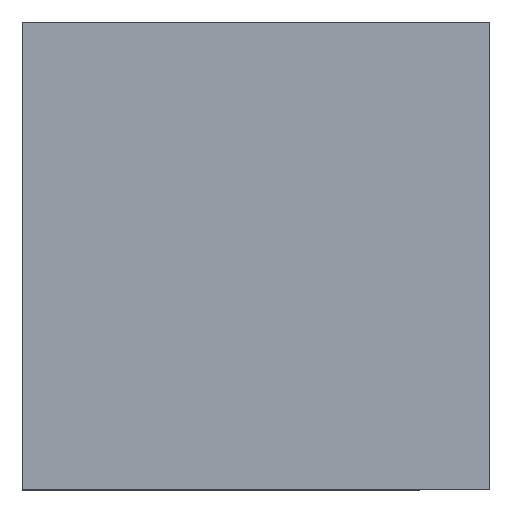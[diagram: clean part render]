
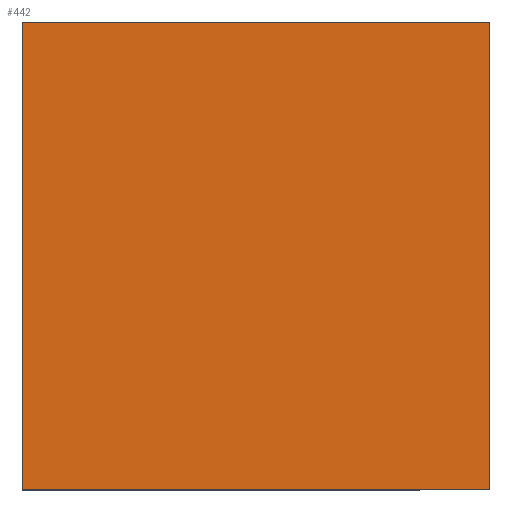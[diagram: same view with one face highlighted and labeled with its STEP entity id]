
A CAD part, top view. The second image highlights one B-rep face of the part: STEP entity #442.
In plain terms, the highlighted planar face has unit normal (0, 0, 1).
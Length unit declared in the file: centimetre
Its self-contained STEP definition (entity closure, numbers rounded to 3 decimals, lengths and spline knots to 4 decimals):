
#22 = VECTOR ( 'NONE', #805, 100. ) ;
#24 = VERTEX_POINT ( 'NONE', #83 ) ;
#33 = FACE_OUTER_BOUND ( 'NONE', #736, .T. ) ;
#38 = DIRECTION ( 'NONE',  ( 1., 0., 0. ) ) ;
#66 = ORIENTED_EDGE ( 'NONE', *, *, #72, .T. ) ;
#72 = EDGE_CURVE ( 'NONE', #688, #473, #140, .T. ) ;
#83 = CARTESIAN_POINT ( 'NONE',  ( 0., 0., 1000. ) ) ;
#94 = DIRECTION ( 'NONE',  ( -1., 0., 0. ) ) ;
#140 = LINE ( 'NONE', #595, #240 ) ;
#143 = VECTOR ( 'NONE', #94, 100. ) ;
#224 = CARTESIAN_POINT ( 'NONE',  ( 0., 1000., 1000. ) ) ;
#230 = VECTOR ( 'NONE', #38, 100. ) ;
#240 = VECTOR ( 'NONE', #465, 100. ) ;
#296 = CARTESIAN_POINT ( 'NONE',  ( 0., 1000., 1000. ) ) ;
#329 = AXIS2_PLACEMENT_3D ( 'NONE', #427, #361, #497 ) ;
#348 = LINE ( 'NONE', #683, #143 ) ;
#350 = ORIENTED_EDGE ( 'NONE', *, *, #823, .T. ) ;
#356 = ORIENTED_EDGE ( 'NONE', *, *, #448, .T. ) ;
#361 = DIRECTION ( 'NONE',  ( 0., 0., 1. ) ) ;
#427 = CARTESIAN_POINT ( 'NONE',  ( 0., 0., 1000. ) ) ;
#433 = CARTESIAN_POINT ( 'NONE',  ( 1000., 0., 1000. ) ) ;
#442 = ADVANCED_FACE ( 'NONE', ( #33 ), #555, .T. ) ;
#448 = EDGE_CURVE ( 'NONE', #549, #24, #546, .T. ) ;
#465 = DIRECTION ( 'NONE',  ( 0., 1., 0. ) ) ;
#473 = VERTEX_POINT ( 'NONE', #558 ) ;
#476 = CARTESIAN_POINT ( 'NONE',  ( 0., 0., 1000. ) ) ;
#497 = DIRECTION ( 'NONE',  ( 1., 0., 0. ) ) ;
#546 = LINE ( 'NONE', #296, #22 ) ;
#549 = VERTEX_POINT ( 'NONE', #224 ) ;
#555 = PLANE ( 'NONE',  #329 ) ;
#558 = CARTESIAN_POINT ( 'NONE',  ( 1000., 1000., 1000. ) ) ;
#566 = EDGE_CURVE ( 'NONE', #473, #549, #348, .T. ) ;
#595 = CARTESIAN_POINT ( 'NONE',  ( 1000., 1000., 1000. ) ) ;
#683 = CARTESIAN_POINT ( 'NONE',  ( 0., 1000., 1000. ) ) ;
#688 = VERTEX_POINT ( 'NONE', #433 ) ;
#698 = ORIENTED_EDGE ( 'NONE', *, *, #566, .T. ) ;
#736 = EDGE_LOOP ( 'NONE', ( #356, #350, #66, #698 ) ) ;
#805 = DIRECTION ( 'NONE',  ( 0., -1., 0. ) ) ;
#811 = LINE ( 'NONE', #476, #230 ) ;
#823 = EDGE_CURVE ( 'NONE', #24, #688, #811, .T. ) ;
